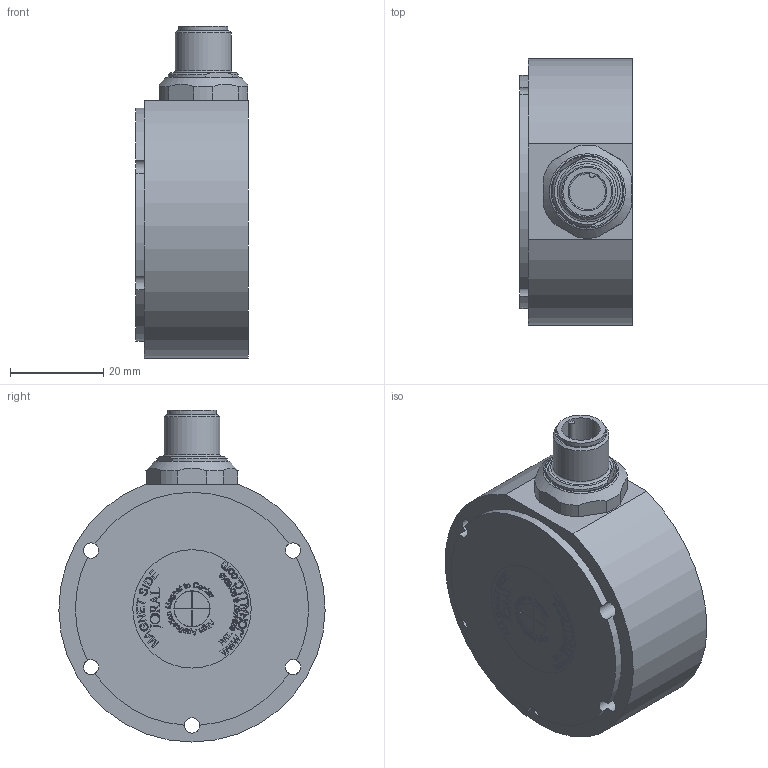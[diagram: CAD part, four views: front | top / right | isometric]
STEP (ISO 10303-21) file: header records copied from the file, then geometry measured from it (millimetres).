
FILE_DESCRIPTION(/* description */ (''),/* implementation_level */ '2;1');
FILE_NAME(/* name */ 'HP58SE-CUST-ASSY-WRAP.step',/* time_stamp */ '2024-06-17T10:12:08-05:00',/* author */ (''),/* organization */ (''),/* preprocessor_version */ 'ST-DEVELOPER v20',/* originating_system */ 'Autodesk Translation Framework v13.14.0.145',/* authorisation */ '');
FILE_SCHEMA (('AUTOMOTIVE_DESIGN { 1 0 10303 214 3 1 1 }'));
Products named in the file (1): HP58SE-CUST-ASSY-WRAP
Bounding box: 24.18 x 57.15 x 71.25 mm (x, y, z)
Volume: 61405.5 mm3; surface area: 11887.1 mm2
Topology: 1 solids, 1 shells, 1600 faces, 4427 edges, 2951 vertices
Faces by surface type: bspline 844, plane 705, cylinder 42, cone 6, torus 3
Full cylindrical faces by diameter (mm): 1.916 x1, 3.277 x5, 8.3 x1, 10.5 x1, 12 x1, 15.469 x1, 15.8 x1, 25.4 x1
Entity records: 58811 total; most frequent: CARTESIAN_POINT 23647, ORIENTED_EDGE 8854, EDGE_CURVE 4427, DIRECTION 4340, VERTEX_POINT 2951, LINE 2606, VECTOR 2606, EDGE_LOOP 1736
